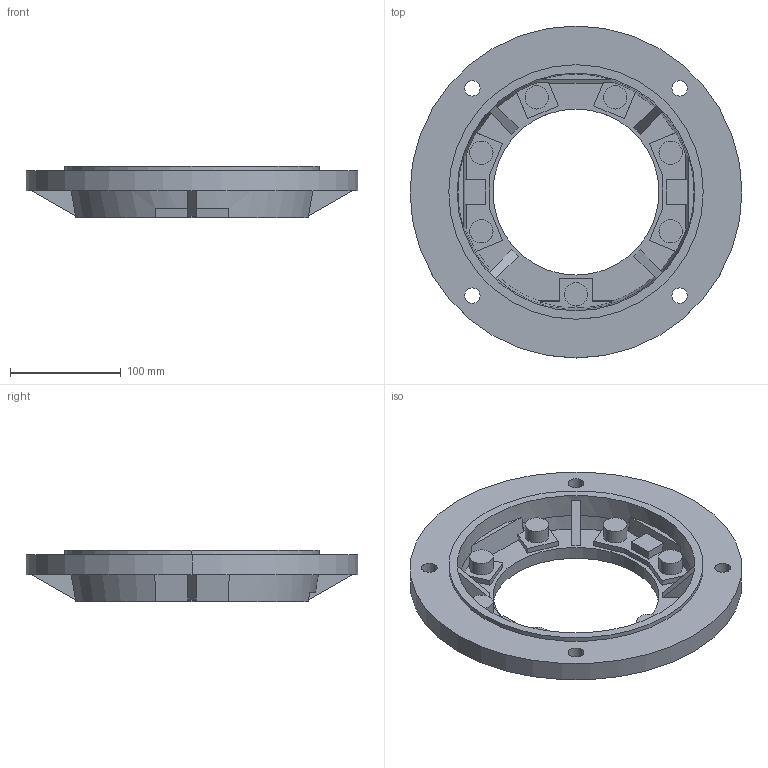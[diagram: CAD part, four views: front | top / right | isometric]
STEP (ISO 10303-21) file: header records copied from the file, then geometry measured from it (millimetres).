
FILE_DESCRIPTION(/* description */ (''),/* implementation_level */ '2;1');
FILE_NAME(/* name */ '3_FLANGIA (CAMPANA) LATERALE FC B123',/* time_stamp */ '2025-10-22T11:19:16+02:00',/* author */ (''),/* organization */ (''),/* preprocessor_version */ 'ST-DEVELOPER v19.2',/* originating_system */ 'Rhino 8.23',/* authorisation */ '');
FILE_SCHEMA (('CONFIG_CONTROL_DESIGN'));
Length unit declared in the file: millimetre
Products named in the file (3): Document; BFU123FC; Blocco 01
Bounding box: 300 x 300 x 46.5 mm (x, y, z)
Volume: 1056065.9 mm3; surface area: 183132.6 mm2
Topology: 8 solids, 8 shells, 163 faces, 419 edges, 282 vertices
Faces by surface type: plane 112, cylinder 28, bspline 23
Entity records: 6481 total; most frequent: CARTESIAN_POINT 1834, ORIENTED_EDGE 838, EDGE_CURVE 419, DIRECTION 364, B_SPLINE_CURVE_WITH_KNOTS 286, VERTEX_POINT 282, AXIS2_PLACEMENT_3D 252, EDGE_LOOP 185
